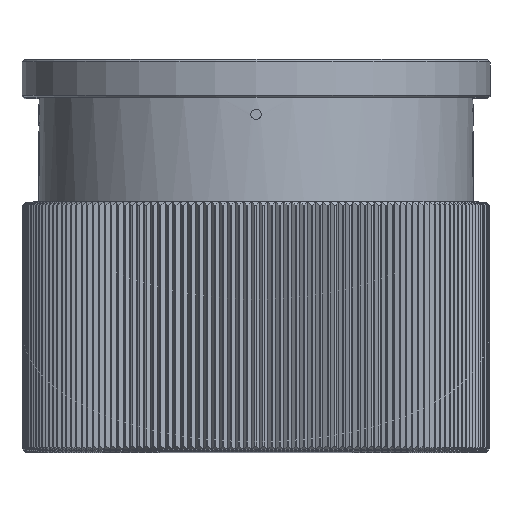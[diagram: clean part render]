
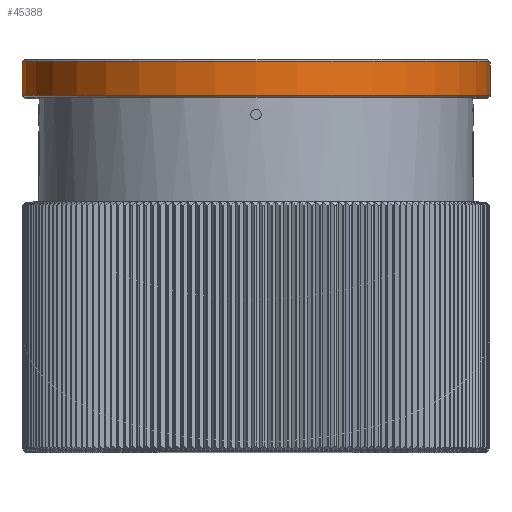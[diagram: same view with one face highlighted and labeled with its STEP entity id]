
A CAD part, top view. The second image highlights one B-rep face of the part: STEP entity #45388.
In plain terms, the highlighted cylindrical face has radius 34 mm (diameter 68 mm), a full revolution.
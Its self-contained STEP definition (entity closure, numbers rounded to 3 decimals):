
#916=CIRCLE('',#47704,34.);
#917=CIRCLE('',#47705,34.);
#3508=CYLINDRICAL_SURFACE('',#47703,34.);
#7724=ORIENTED_EDGE('',*,*,#16887,.T.);
#7725=ORIENTED_EDGE('',*,*,#16888,.T.);
#16887=EDGE_CURVE('',#21543,#21543,#916,.F.);
#16888=EDGE_CURVE('',#21544,#21544,#917,.T.);
#21543=VERTEX_POINT('',#62698);
#21544=VERTEX_POINT('',#62700);
#25831=EDGE_LOOP('',(#7724));
#25832=EDGE_LOOP('',(#7725));
#28111=FACE_BOUND('',#25831,.T.);
#28112=FACE_BOUND('',#25832,.T.);
#45388=ADVANCED_FACE('',(#28111,#28112),#3508,.T.);
#47703=AXIS2_PLACEMENT_3D('',#62696,#52134,#52135);
#47704=AXIS2_PLACEMENT_3D('',#62697,#52136,#52137);
#47705=AXIS2_PLACEMENT_3D('',#62699,#52138,#52139);
#52134=DIRECTION('',(1.,0.,0.));
#52135=DIRECTION('',(0.,0.,-1.));
#52136=DIRECTION('',(1.,0.,0.));
#52137=DIRECTION('',(0.,0.,-1.));
#52138=DIRECTION('',(1.,0.,0.));
#52139=DIRECTION('',(0.,0.,-1.));
#62696=CARTESIAN_POINT('',(-6.5,0.,0.));
#62697=CARTESIAN_POINT('',(0.7,0.,0.));
#62698=CARTESIAN_POINT('',(0.7,0.,-34.));
#62699=CARTESIAN_POINT('',(-4.2,0.,0.));
#62700=CARTESIAN_POINT('',(-4.2,0.,-34.));
